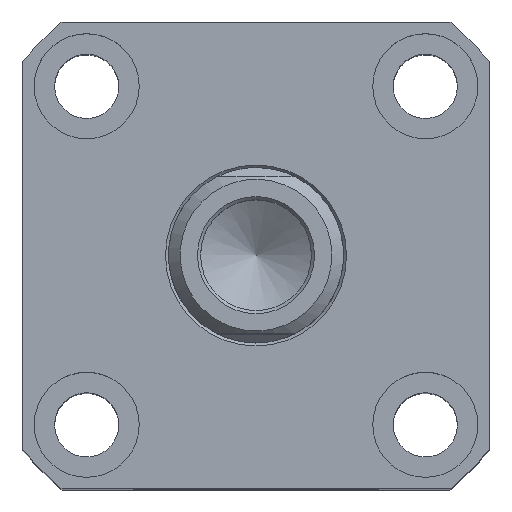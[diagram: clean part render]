
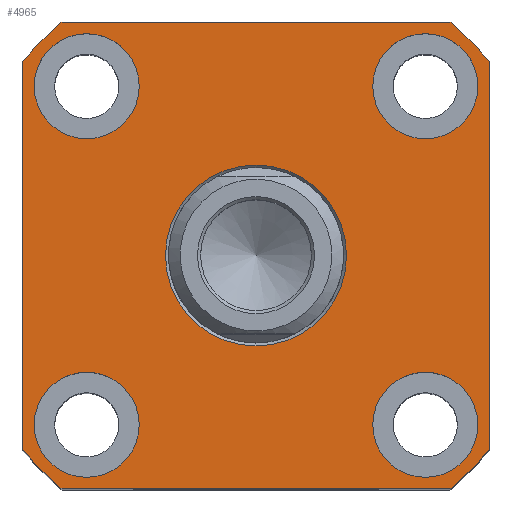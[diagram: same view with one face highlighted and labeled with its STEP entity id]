
A CAD part, top view. The second image highlights one B-rep face of the part: STEP entity #4965.
In plain terms, the highlighted planar face has unit normal (0, 0, 1).
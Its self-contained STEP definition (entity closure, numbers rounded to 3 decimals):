
#2675=PLANE('',#10585);
#3040=LINE('',#14415,#3772);
#3047=LINE('',#15077,#3779);
#3051=LINE('',#15092,#3783);
#3054=LINE('',#15101,#3786);
#3772=VECTOR('',#11115,1.);
#3779=VECTOR('',#11274,1.);
#3783=VECTOR('',#11292,1.);
#3786=VECTOR('',#11303,1.);
#4965=ADVANCED_FACE('',(#5481,#5482,#5483,#5484,#5485,#5486),#2675,.T.);
#5481=FACE_BOUND('',#5736,.T.);
#5482=FACE_BOUND('',#5737,.T.);
#5483=FACE_BOUND('',#5738,.T.);
#5484=FACE_BOUND('',#5739,.T.);
#5485=FACE_BOUND('',#5740,.T.);
#5486=FACE_BOUND('',#5741,.T.);
#5736=EDGE_LOOP('',(#6509));
#5737=EDGE_LOOP('',(#6510));
#5738=EDGE_LOOP('',(#6511));
#5739=EDGE_LOOP('',(#6512));
#5740=EDGE_LOOP('',(#6513));
#5741=EDGE_LOOP('',(#6514,#6515,#6516,#6517,#6518,#6519,#6520,#6521));
#6509=ORIENTED_EDGE('',*,*,#9281,.T.);
#6510=ORIENTED_EDGE('',*,*,#9344,.F.);
#6511=ORIENTED_EDGE('',*,*,#9346,.F.);
#6512=ORIENTED_EDGE('',*,*,#9348,.F.);
#6513=ORIENTED_EDGE('',*,*,#9350,.F.);
#6514=ORIENTED_EDGE('',*,*,#9370,.T.);
#6515=ORIENTED_EDGE('',*,*,#9374,.T.);
#6516=ORIENTED_EDGE('',*,*,#9376,.T.);
#6517=ORIENTED_EDGE('',*,*,#9279,.T.);
#6518=ORIENTED_EDGE('',*,*,#9379,.T.);
#6519=ORIENTED_EDGE('',*,*,#9382,.T.);
#6520=ORIENTED_EDGE('',*,*,#9385,.T.);
#6521=ORIENTED_EDGE('',*,*,#9387,.T.);
#8468=VERTEX_POINT('',#14414);
#8469=VERTEX_POINT('',#14416);
#8470=VERTEX_POINT('',#14420);
#8532=VERTEX_POINT('',#15005);
#8534=VERTEX_POINT('',#15010);
#8536=VERTEX_POINT('',#15015);
#8538=VERTEX_POINT('',#15020);
#8558=VERTEX_POINT('',#15068);
#8559=VERTEX_POINT('',#15070);
#8561=VERTEX_POINT('',#15076);
#8563=VERTEX_POINT('',#15085);
#8565=VERTEX_POINT('',#15091);
#8567=VERTEX_POINT('',#15097);
#9279=EDGE_CURVE('',#8469,#8468,#3040,.T.);
#9281=EDGE_CURVE('',#8470,#8470,#10311,.T.);
#9344=EDGE_CURVE('',#8532,#8532,#10334,.T.);
#9346=EDGE_CURVE('',#8534,#8534,#10336,.T.);
#9348=EDGE_CURVE('',#8536,#8536,#10338,.T.);
#9350=EDGE_CURVE('',#8538,#8538,#10340,.T.);
#9370=EDGE_CURVE('',#8559,#8558,#10359,.T.);
#9374=EDGE_CURVE('',#8558,#8561,#3047,.T.);
#9376=EDGE_CURVE('',#8561,#8469,#10361,.T.);
#9379=EDGE_CURVE('',#8468,#8563,#10363,.T.);
#9382=EDGE_CURVE('',#8563,#8565,#3051,.T.);
#9385=EDGE_CURVE('',#8565,#8567,#10365,.T.);
#9387=EDGE_CURVE('',#8567,#8559,#3054,.T.);
#10311=CIRCLE('',#10498,15.5);
#10334=CIRCLE('',#10534,9.);
#10336=CIRCLE('',#10537,9.);
#10338=CIRCLE('',#10540,9.);
#10340=CIRCLE('',#10543,9.);
#10359=CIRCLE('',#10571,52.);
#10361=CIRCLE('',#10575,52.);
#10363=CIRCLE('',#10578,52.);
#10365=CIRCLE('',#10582,52.);
#10498=AXIS2_PLACEMENT_3D('',#14419,#11119,#11120);
#10534=AXIS2_PLACEMENT_3D('',#15004,#11192,#11193);
#10537=AXIS2_PLACEMENT_3D('',#15009,#11198,#11199);
#10540=AXIS2_PLACEMENT_3D('',#15014,#11204,#11205);
#10543=AXIS2_PLACEMENT_3D('',#15019,#11210,#11211);
#10571=AXIS2_PLACEMENT_3D('',#15069,#11267,#11268);
#10575=AXIS2_PLACEMENT_3D('',#15080,#11279,#11280);
#10578=AXIS2_PLACEMENT_3D('',#15086,#11286,#11287);
#10582=AXIS2_PLACEMENT_3D('',#15098,#11298,#11299);
#10585=AXIS2_PLACEMENT_3D('',#15103,#11306,#11307);
#11115=DIRECTION('',(1.,0.,0.));
#11119=DIRECTION('',(0.,0.,-1.));
#11120=DIRECTION('',(1.,0.,0.));
#11192=DIRECTION('',(0.,0.,1.));
#11193=DIRECTION('',(1.,0.,0.));
#11198=DIRECTION('',(0.,0.,1.));
#11199=DIRECTION('',(1.,0.,0.));
#11204=DIRECTION('',(0.,0.,1.));
#11205=DIRECTION('',(1.,0.,0.));
#11210=DIRECTION('',(0.,0.,1.));
#11211=DIRECTION('',(1.,0.,0.));
#11267=DIRECTION('',(0.,0.,1.));
#11268=DIRECTION('',(1.,0.,0.));
#11274=DIRECTION('',(0.,-1.,0.));
#11279=DIRECTION('',(0.,0.,1.));
#11280=DIRECTION('',(1.,0.,0.));
#11286=DIRECTION('',(0.,0.,1.));
#11287=DIRECTION('',(1.,0.,0.));
#11292=DIRECTION('',(0.,1.,0.));
#11298=DIRECTION('',(0.,0.,1.));
#11299=DIRECTION('',(1.,0.,0.));
#11303=DIRECTION('',(-1.,0.,0.));
#11306=DIRECTION('',(0.,0.,1.));
#11307=DIRECTION('',(-1.,0.,0.));
#14414=CARTESIAN_POINT('',(33.226,-40.,50.));
#14415=CARTESIAN_POINT('',(-33.226,-40.,50.));
#14416=CARTESIAN_POINT('',(-33.226,-40.,50.));
#14419=CARTESIAN_POINT('',(0.,0.,50.));
#14420=CARTESIAN_POINT('',(15.5,0.,50.));
#15004=CARTESIAN_POINT('',(29.,-29.,50.));
#15005=CARTESIAN_POINT('',(38.,-29.,50.));
#15009=CARTESIAN_POINT('',(-29.,-29.,50.));
#15010=CARTESIAN_POINT('',(-20.,-29.,50.));
#15014=CARTESIAN_POINT('',(-29.,29.,50.));
#15015=CARTESIAN_POINT('',(-20.,29.,50.));
#15019=CARTESIAN_POINT('',(29.,29.,50.));
#15020=CARTESIAN_POINT('',(38.,29.,50.));
#15068=CARTESIAN_POINT('',(-40.,33.226,50.));
#15069=CARTESIAN_POINT('',(0.,0.,50.));
#15070=CARTESIAN_POINT('',(-33.226,40.,50.));
#15076=CARTESIAN_POINT('',(-40.,-33.226,50.));
#15077=CARTESIAN_POINT('',(-40.,33.226,50.));
#15080=CARTESIAN_POINT('',(0.,0.,50.));
#15085=CARTESIAN_POINT('',(40.,-33.226,50.));
#15086=CARTESIAN_POINT('',(0.,0.,50.));
#15091=CARTESIAN_POINT('',(40.,33.226,50.));
#15092=CARTESIAN_POINT('',(40.,33.226,50.));
#15097=CARTESIAN_POINT('',(33.226,40.,50.));
#15098=CARTESIAN_POINT('',(0.,0.,50.));
#15101=CARTESIAN_POINT('',(-33.226,40.,50.));
#15103=CARTESIAN_POINT('',(0.,0.,50.));
